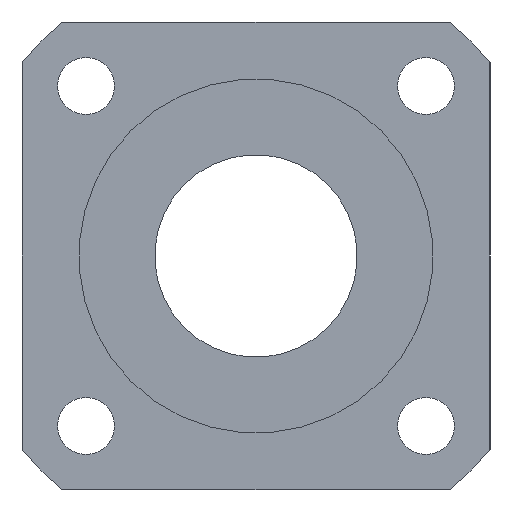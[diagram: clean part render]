
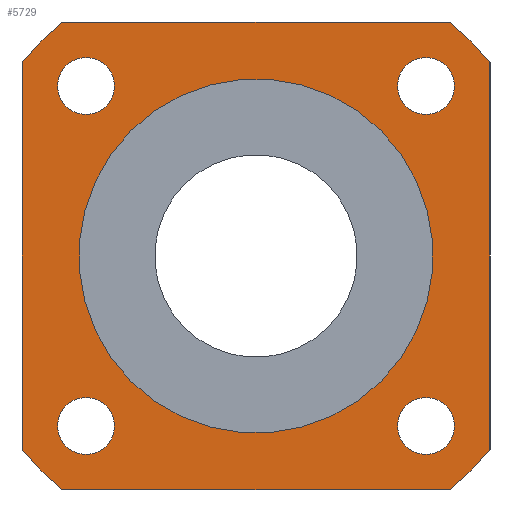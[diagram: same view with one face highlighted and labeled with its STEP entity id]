
A CAD part, left-side view. The second image highlights one B-rep face of the part: STEP entity #5729.
In plain terms, the highlighted planar face has unit normal (-1, 0, 0).
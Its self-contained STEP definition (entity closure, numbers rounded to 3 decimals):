
#108=CIRCLE('',#6079,24.);
#109=CIRCLE('',#6081,24.);
#110=CIRCLE('',#6083,24.);
#120=CIRCLE('',#6098,14.);
#122=CIRCLE('',#6103,24.);
#123=CIRCLE('',#6104,2.25);
#124=CIRCLE('',#6105,2.25);
#125=CIRCLE('',#6106,2.25);
#126=CIRCLE('',#6107,2.25);
#533=ORIENTED_EDGE('',*,*,#2183,.T.);
#534=ORIENTED_EDGE('',*,*,#2166,.F.);
#535=ORIENTED_EDGE('',*,*,#2184,.T.);
#536=ORIENTED_EDGE('',*,*,#2169,.F.);
#537=ORIENTED_EDGE('',*,*,#2185,.T.);
#538=ORIENTED_EDGE('',*,*,#2186,.F.);
#539=ORIENTED_EDGE('',*,*,#2187,.T.);
#540=ORIENTED_EDGE('',*,*,#2164,.F.);
#541=ORIENTED_EDGE('',*,*,#2188,.T.);
#542=ORIENTED_EDGE('',*,*,#2189,.T.);
#543=ORIENTED_EDGE('',*,*,#2190,.T.);
#544=ORIENTED_EDGE('',*,*,#2191,.T.);
#545=ORIENTED_EDGE('',*,*,#2181,.T.);
#2164=EDGE_CURVE('',#2991,#2992,#108,.T.);
#2166=EDGE_CURVE('',#2993,#2994,#109,.T.);
#2169=EDGE_CURVE('',#2995,#2996,#110,.T.);
#2181=EDGE_CURVE('',#3006,#3006,#120,.T.);
#2183=EDGE_CURVE('',#2991,#2994,#3497,.T.);
#2184=EDGE_CURVE('',#2993,#2996,#3498,.T.);
#2185=EDGE_CURVE('',#2995,#3008,#3499,.T.);
#2186=EDGE_CURVE('',#3009,#3008,#122,.T.);
#2187=EDGE_CURVE('',#3009,#2992,#3500,.T.);
#2188=EDGE_CURVE('',#3010,#3010,#123,.T.);
#2189=EDGE_CURVE('',#3011,#3011,#124,.T.);
#2190=EDGE_CURVE('',#3012,#3012,#125,.T.);
#2191=EDGE_CURVE('',#3013,#3013,#126,.T.);
#2991=VERTEX_POINT('',#9030);
#2992=VERTEX_POINT('',#9032);
#2993=VERTEX_POINT('',#9036);
#2994=VERTEX_POINT('',#9037);
#2995=VERTEX_POINT('',#9042);
#2996=VERTEX_POINT('',#9043);
#3006=VERTEX_POINT('',#9070);
#3008=VERTEX_POINT('',#9079);
#3009=VERTEX_POINT('',#9081);
#3010=VERTEX_POINT('',#9084);
#3011=VERTEX_POINT('',#9086);
#3012=VERTEX_POINT('',#9088);
#3013=VERTEX_POINT('',#9090);
#3497=LINE('',#9076,#4173);
#3498=LINE('',#9077,#4174);
#3499=LINE('',#9078,#4175);
#3500=LINE('',#9082,#4176);
#4173=VECTOR('',#6657,1000.);
#4174=VECTOR('',#6658,1000.);
#4175=VECTOR('',#6659,1000.);
#4176=VECTOR('',#6662,1000.);
#4705=EDGE_LOOP('',(#533,#534,#535,#536,#537,#538,#539,#540));
#4706=EDGE_LOOP('',(#541));
#4707=EDGE_LOOP('',(#542));
#4708=EDGE_LOOP('',(#543));
#4709=EDGE_LOOP('',(#544));
#4710=EDGE_LOOP('',(#545));
#5113=FACE_BOUND('',#4705,.T.);
#5114=FACE_BOUND('',#4706,.T.);
#5115=FACE_BOUND('',#4707,.T.);
#5116=FACE_BOUND('',#4708,.T.);
#5117=FACE_BOUND('',#4709,.T.);
#5118=FACE_BOUND('',#4710,.T.);
#5466=PLANE('',#6102);
#5729=ADVANCED_FACE('',(#5113,#5114,#5115,#5116,#5117,#5118),#5466,.F.);
#6079=AXIS2_PLACEMENT_3D('',#9031,#6604,#6605);
#6081=AXIS2_PLACEMENT_3D('',#9035,#6609,#6610);
#6083=AXIS2_PLACEMENT_3D('',#9041,#6615,#6616);
#6098=AXIS2_PLACEMENT_3D('',#9069,#6647,#6648);
#6102=AXIS2_PLACEMENT_3D('',#9075,#6655,#6656);
#6103=AXIS2_PLACEMENT_3D('',#9080,#6660,#6661);
#6104=AXIS2_PLACEMENT_3D('',#9083,#6663,#6664);
#6105=AXIS2_PLACEMENT_3D('',#9085,#6665,#6666);
#6106=AXIS2_PLACEMENT_3D('',#9087,#6667,#6668);
#6107=AXIS2_PLACEMENT_3D('',#9089,#6669,#6670);
#6604=DIRECTION('',(1.,0.,0.));
#6605=DIRECTION('',(0.,0.707,-0.707));
#6609=DIRECTION('',(1.,0.,0.));
#6610=DIRECTION('',(0.,0.707,-0.707));
#6615=DIRECTION('',(1.,0.,0.));
#6616=DIRECTION('',(0.,0.707,-0.707));
#6647=DIRECTION('',(1.,0.,0.));
#6648=DIRECTION('',(0.,0.707,-0.707));
#6655=DIRECTION('',(1.,0.,0.));
#6656=DIRECTION('',(0.,0.707,-0.707));
#6657=DIRECTION('',(0.,1.,0.));
#6658=DIRECTION('',(0.,0.,-1.));
#6659=DIRECTION('',(0.,-1.,0.));
#6660=DIRECTION('',(1.,0.,0.));
#6661=DIRECTION('',(0.,0.707,-0.707));
#6662=DIRECTION('',(0.,0.,1.));
#6663=DIRECTION('',(1.,0.,0.));
#6664=DIRECTION('',(0.,0.707,-0.707));
#6665=DIRECTION('',(1.,0.,0.));
#6666=DIRECTION('',(0.,0.707,-0.707));
#6667=DIRECTION('',(1.,0.,0.));
#6668=DIRECTION('',(0.,0.707,-0.707));
#6669=DIRECTION('',(1.,0.,0.));
#6670=DIRECTION('',(0.,0.707,-0.707));
#9030=CARTESIAN_POINT('',(29.,-15.289,18.5));
#9031=CARTESIAN_POINT('',(29.,0.,0.));
#9032=CARTESIAN_POINT('',(29.,-18.5,15.289));
#9035=CARTESIAN_POINT('',(29.,0.,0.));
#9036=CARTESIAN_POINT('',(29.,18.5,15.289));
#9037=CARTESIAN_POINT('',(29.,15.289,18.5));
#9041=CARTESIAN_POINT('',(29.,0.,0.));
#9042=CARTESIAN_POINT('',(29.,15.289,-18.5));
#9043=CARTESIAN_POINT('',(29.,18.5,-15.289));
#9069=CARTESIAN_POINT('',(29.,0.,0.));
#9070=CARTESIAN_POINT('',(29.,9.899,-9.899));
#9075=CARTESIAN_POINT('',(29.,0.,0.));
#9076=CARTESIAN_POINT('',(29.,18.5,18.5));
#9077=CARTESIAN_POINT('',(29.,18.5,-18.5));
#9078=CARTESIAN_POINT('',(29.,-18.5,-18.5));
#9079=CARTESIAN_POINT('',(29.,-15.289,-18.5));
#9080=CARTESIAN_POINT('',(29.,0.,0.));
#9081=CARTESIAN_POINT('',(29.,-18.5,-15.289));
#9082=CARTESIAN_POINT('',(29.,-18.5,18.5));
#9083=CARTESIAN_POINT('',(29.,13.435,-13.435));
#9084=CARTESIAN_POINT('',(29.,15.026,-15.026));
#9085=CARTESIAN_POINT('',(29.,-13.435,-13.435));
#9086=CARTESIAN_POINT('',(29.,-11.844,-15.026));
#9087=CARTESIAN_POINT('',(29.,-13.435,13.435));
#9088=CARTESIAN_POINT('',(29.,-11.844,11.844));
#9089=CARTESIAN_POINT('',(29.,13.435,13.435));
#9090=CARTESIAN_POINT('',(29.,15.026,11.844));
